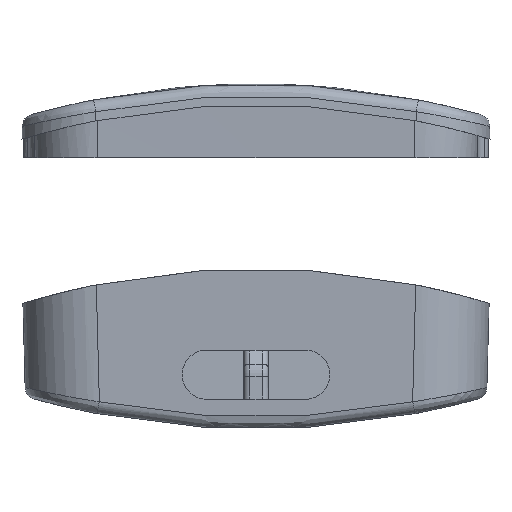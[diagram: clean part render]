
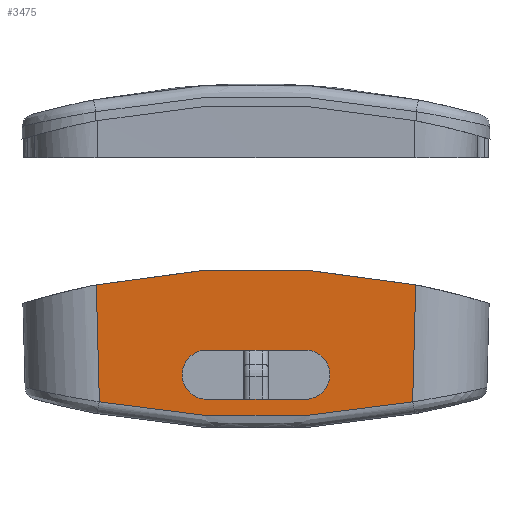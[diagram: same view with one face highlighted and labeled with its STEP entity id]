
A CAD part, left-side view. The second image highlights one B-rep face of the part: STEP entity #3475.
In plain terms, the highlighted planar face has unit normal (-1, 0, -0.026) as drawn and (-1, 0, 0.026) by its records, which use the part's own axes.
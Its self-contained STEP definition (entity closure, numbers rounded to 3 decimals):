
#2223=PLANE('',#7053);
#2610=ELLIPSE('',#7049,2.001,2.);
#2611=ELLIPSE('',#7050,2.001,2.);
#2612=ELLIPSE('',#7051,65.022,65.);
#2613=ELLIPSE('',#7052,67.023,67.);
#2850=LINE('',#14403,#3168);
#2851=LINE('',#14407,#3169);
#2852=LINE('',#14411,#3170);
#2853=LINE('',#14415,#3171);
#3168=VECTOR('',#7765,1.);
#3169=VECTOR('',#7768,1.);
#3170=VECTOR('',#7771,1.);
#3171=VECTOR('',#7774,1.);
#3475=ADVANCED_FACE('',(#3773,#3774),#2223,.T.);
#3773=FACE_BOUND('',#3980,.T.);
#3774=FACE_BOUND('',#3981,.T.);
#3980=EDGE_LOOP('',(#4936,#4937,#4938,#4939));
#3981=EDGE_LOOP('',(#4940,#4941,#4942,#4943));
#4936=ORIENTED_EDGE('',*,*,#6393,.T.);
#4937=ORIENTED_EDGE('',*,*,#6394,.T.);
#4938=ORIENTED_EDGE('',*,*,#6395,.T.);
#4939=ORIENTED_EDGE('',*,*,#6396,.T.);
#4940=ORIENTED_EDGE('',*,*,#6397,.T.);
#4941=ORIENTED_EDGE('',*,*,#6398,.T.);
#4942=ORIENTED_EDGE('',*,*,#6399,.T.);
#4943=ORIENTED_EDGE('',*,*,#6400,.T.);
#5795=VERTEX_POINT('',#14401);
#5796=VERTEX_POINT('',#14402);
#5797=VERTEX_POINT('',#14404);
#5798=VERTEX_POINT('',#14406);
#5799=VERTEX_POINT('',#14409);
#5800=VERTEX_POINT('',#14410);
#5801=VERTEX_POINT('',#14412);
#5802=VERTEX_POINT('',#14414);
#6393=EDGE_CURVE('',#5795,#5796,#2610,.T.);
#6394=EDGE_CURVE('',#5796,#5797,#2850,.T.);
#6395=EDGE_CURVE('',#5797,#5798,#2611,.T.);
#6396=EDGE_CURVE('',#5798,#5795,#2851,.T.);
#6397=EDGE_CURVE('',#5799,#5800,#2612,.T.);
#6398=EDGE_CURVE('',#5800,#5801,#2852,.T.);
#6399=EDGE_CURVE('',#5801,#5802,#2613,.T.);
#6400=EDGE_CURVE('',#5802,#5799,#2853,.T.);
#7049=AXIS2_PLACEMENT_3D('',#14400,#7763,#7764);
#7050=AXIS2_PLACEMENT_3D('',#14405,#7766,#7767);
#7051=AXIS2_PLACEMENT_3D('',#14408,#7769,#7770);
#7052=AXIS2_PLACEMENT_3D('',#14413,#7772,#7773);
#7053=AXIS2_PLACEMENT_3D('',#14416,#7775,#7776);
#7763=DIRECTION('',(1.,0.,-0.026));
#7764=DIRECTION('',(0.026,0.,1.));
#7765=DIRECTION('',(0.,1.,0.));
#7766=DIRECTION('',(1.,0.,-0.026));
#7767=DIRECTION('',(0.026,0.,1.));
#7768=DIRECTION('',(0.,-1.,0.));
#7769=DIRECTION('',(-1.,0.,0.026));
#7770=DIRECTION('',(-0.026,0.,-1.));
#7771=DIRECTION('',(0.026,0.026,0.999));
#7772=DIRECTION('',(-1.,0.,0.026));
#7773=DIRECTION('',(-0.026,0.,-1.));
#7774=DIRECTION('',(-0.026,0.026,-0.999));
#7775=DIRECTION('',(-1.,0.,0.026));
#7776=DIRECTION('',(0.026,0.,1.));
#14400=CARTESIAN_POINT('',(-29.775,-34.,4.6));
#14401=CARTESIAN_POINT('',(-29.722,-34.,6.6));
#14402=CARTESIAN_POINT('',(-29.827,-34.,2.6));
#14403=CARTESIAN_POINT('',(-29.827,-49.,2.6));
#14404=CARTESIAN_POINT('',(-29.827,-26.,2.6));
#14405=CARTESIAN_POINT('',(-29.775,-26.,4.6));
#14406=CARTESIAN_POINT('',(-29.722,-26.,6.6));
#14407=CARTESIAN_POINT('',(-29.722,-49.,6.6));
#14408=CARTESIAN_POINT('',(-28.298,-30.,61.));
#14409=CARTESIAN_POINT('',(-29.966,-17.032,-2.693));
#14410=CARTESIAN_POINT('',(-29.966,-42.968,-2.693));
#14411=CARTESIAN_POINT('',(-30.004,-43.006,-4.157));
#14412=CARTESIAN_POINT('',(-29.717,-42.719,6.808));
#14413=CARTESIAN_POINT('',(-31.44,-30.,-58.974));
#14414=CARTESIAN_POINT('',(-29.717,-17.281,6.808));
#14415=CARTESIAN_POINT('',(-29.978,-17.02,-3.163));
#14416=CARTESIAN_POINT('',(-30.,-49.,-4.));
